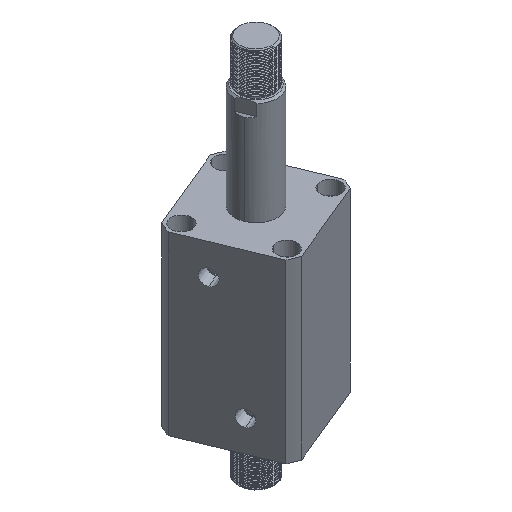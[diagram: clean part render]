
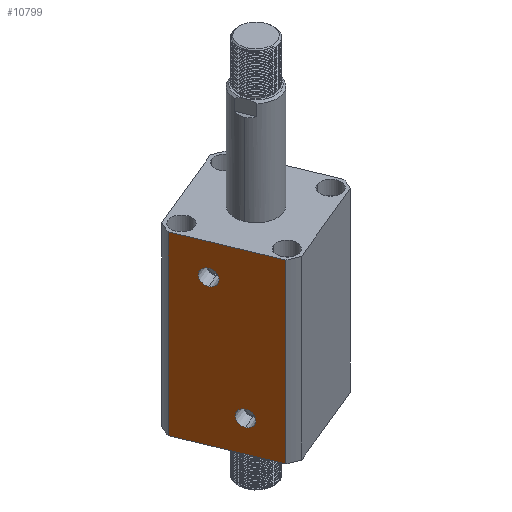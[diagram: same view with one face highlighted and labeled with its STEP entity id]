
A CAD part, isometric view. The second image highlights one B-rep face of the part: STEP entity #10799.
In plain terms, the highlighted planar face has unit normal (-0.924, -0.383, 0) as drawn and (0, -1, 0) by its records, which use the part's own axes.
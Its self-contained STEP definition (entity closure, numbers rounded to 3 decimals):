
#269 = DIRECTION ( 'NONE',  ( 1., 0., 0. ) ) ;
#918 = ORIENTED_EDGE ( 'NONE', *, *, #18640, .T. ) ;
#2497 = DIRECTION ( 'NONE',  ( 0., 0., 1. ) ) ;
#2602 = CIRCLE ( 'NONE', #6040, 8.428 ) ;
#2729 = EDGE_CURVE ( 'NONE', #5143, #4057, #25353, .T. ) ;
#3039 = DIRECTION ( 'NONE',  ( 0., -1., 0. ) ) ;
#3335 = LINE ( 'NONE', #4717, #20109 ) ;
#3492 = AXIS2_PLACEMENT_3D ( 'NONE', #13503, #19696, #7605 ) ;
#4057 = VERTEX_POINT ( 'NONE', #23841 ) ;
#4269 = LINE ( 'NONE', #16924, #9044 ) ;
#4717 = CARTESIAN_POINT ( 'NONE',  ( -47.971, -57., -112. ) ) ;
#5010 = CARTESIAN_POINT ( 'NONE',  ( 47.971, -57., -112. ) ) ;
#5143 = VERTEX_POINT ( 'NONE', #20559 ) ;
#5161 = ORIENTED_EDGE ( 'NONE', *, *, #6309, .F. ) ;
#5814 = DIRECTION ( 'NONE',  ( 0., -1., 0. ) ) ;
#6040 = AXIS2_PLACEMENT_3D ( 'NONE', #17908, #5814, #19962 ) ;
#6309 = EDGE_CURVE ( 'NONE', #4057, #17766, #16861, .T. ) ;
#6826 = CARTESIAN_POINT ( 'NONE',  ( -15., -57., 163.428 ) ) ;
#7409 = EDGE_CURVE ( 'NONE', #21426, #9869, #2602, .T. ) ;
#7605 = DIRECTION ( 'NONE',  ( 0., 0., 1. ) ) ;
#8255 = ORIENTED_EDGE ( 'NONE', *, *, #22767, .F. ) ;
#8388 = FACE_BOUND ( 'NONE', #17945, .T. ) ;
#9010 = DIRECTION ( 'NONE',  ( 0., -1., 0. ) ) ;
#9044 = VECTOR ( 'NONE', #18958, 1000. ) ;
#9239 = CARTESIAN_POINT ( 'NONE',  ( -15., -57., 155. ) ) ;
#9665 = CIRCLE ( 'NONE', #15665, 8.428 ) ;
#9692 = FACE_OUTER_BOUND ( 'NONE', #10498, .T. ) ;
#9869 = VERTEX_POINT ( 'NONE', #6826 ) ;
#10498 = EDGE_LOOP ( 'NONE', ( #25648, #918, #5161, #12073 ) ) ;
#10799 = ADVANCED_FACE ( 'NONE', ( #13775, #8388, #9692 ), #17573, .F. ) ;
#11274 = DIRECTION ( 'NONE',  ( 0., 0., -1. ) ) ;
#11547 = EDGE_CURVE ( 'NONE', #14516, #5143, #3335, .T. ) ;
#11994 = CARTESIAN_POINT ( 'NONE',  ( 15., -57., 24.572 ) ) ;
#12073 = ORIENTED_EDGE ( 'NONE', *, *, #2729, .F. ) ;
#13390 = VERTEX_POINT ( 'NONE', #11994 ) ;
#13503 = CARTESIAN_POINT ( 'NONE',  ( -57., -57., 188. ) ) ;
#13775 = FACE_BOUND ( 'NONE', #16503, .T. ) ;
#14483 = EDGE_CURVE ( 'NONE', #13390, #18687, #18256, .T. ) ;
#14516 = VERTEX_POINT ( 'NONE', #21235 ) ;
#14983 = CARTESIAN_POINT ( 'NONE',  ( 15., -57., 41.428 ) ) ;
#15145 = CARTESIAN_POINT ( 'NONE',  ( 15., -57., 33. ) ) ;
#15665 = AXIS2_PLACEMENT_3D ( 'NONE', #21128, #9010, #23153 ) ;
#16219 = VECTOR ( 'NONE', #17189, 1000. ) ;
#16503 = EDGE_LOOP ( 'NONE', ( #21273, #8255 ) ) ;
#16682 = ORIENTED_EDGE ( 'NONE', *, *, #14483, .F. ) ;
#16861 = LINE ( 'NONE', #5010, #16219 ) ;
#16924 = CARTESIAN_POINT ( 'NONE',  ( -57., -57., 0. ) ) ;
#17168 = DIRECTION ( 'NONE',  ( 0., 0., -1. ) ) ;
#17189 = DIRECTION ( 'NONE',  ( 0., 0., -1. ) ) ;
#17573 = PLANE ( 'NONE',  #3492 ) ;
#17766 = VERTEX_POINT ( 'NONE', #23882 ) ;
#17908 = CARTESIAN_POINT ( 'NONE',  ( -15., -57., 155. ) ) ;
#17945 = EDGE_LOOP ( 'NONE', ( #16682, #18534 ) ) ;
#18256 = CIRCLE ( 'NONE', #22635, 8.428 ) ;
#18534 = ORIENTED_EDGE ( 'NONE', *, *, #20021, .F. ) ;
#18640 = EDGE_CURVE ( 'NONE', #14516, #17766, #4269, .T. ) ;
#18687 = VERTEX_POINT ( 'NONE', #14983 ) ;
#18958 = DIRECTION ( 'NONE',  ( 1., 0., 0. ) ) ;
#19642 = CARTESIAN_POINT ( 'NONE',  ( -15., -57., 146.572 ) ) ;
#19696 = DIRECTION ( 'NONE',  ( 0., 1., 0. ) ) ;
#19962 = DIRECTION ( 'NONE',  ( 0., 0., -1. ) ) ;
#20011 = VECTOR ( 'NONE', #269, 1000. ) ;
#20021 = EDGE_CURVE ( 'NONE', #18687, #13390, #9665, .T. ) ;
#20109 = VECTOR ( 'NONE', #2497, 1000. ) ;
#20255 = AXIS2_PLACEMENT_3D ( 'NONE', #9239, #23388, #11274 ) ;
#20559 = CARTESIAN_POINT ( 'NONE',  ( -47.971, -57., 188. ) ) ;
#21128 = CARTESIAN_POINT ( 'NONE',  ( 15., -57., 33. ) ) ;
#21235 = CARTESIAN_POINT ( 'NONE',  ( -47.971, -57., 0. ) ) ;
#21273 = ORIENTED_EDGE ( 'NONE', *, *, #7409, .F. ) ;
#21426 = VERTEX_POINT ( 'NONE', #19642 ) ;
#22635 = AXIS2_PLACEMENT_3D ( 'NONE', #15145, #3039, #17168 ) ;
#22767 = EDGE_CURVE ( 'NONE', #9869, #21426, #25102, .T. ) ;
#23153 = DIRECTION ( 'NONE',  ( 0., 0., -1. ) ) ;
#23304 = CARTESIAN_POINT ( 'NONE',  ( -57., -57., 188. ) ) ;
#23388 = DIRECTION ( 'NONE',  ( 0., -1., 0. ) ) ;
#23841 = CARTESIAN_POINT ( 'NONE',  ( 47.971, -57., 188. ) ) ;
#23882 = CARTESIAN_POINT ( 'NONE',  ( 47.971, -57., 0. ) ) ;
#25102 = CIRCLE ( 'NONE', #20255, 8.428 ) ;
#25353 = LINE ( 'NONE', #23304, #20011 ) ;
#25648 = ORIENTED_EDGE ( 'NONE', *, *, #11547, .F. ) ;
